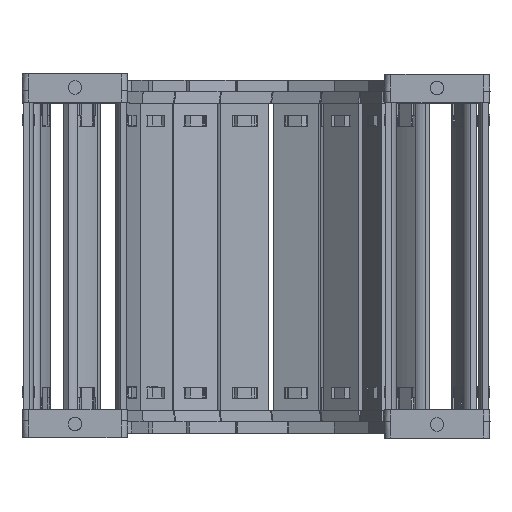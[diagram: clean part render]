
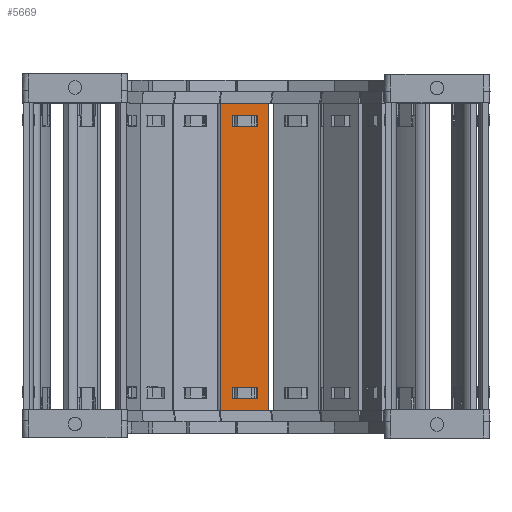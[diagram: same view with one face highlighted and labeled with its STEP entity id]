
A CAD part, top view. The second image highlights one B-rep face of the part: STEP entity #5669.
In plain terms, the highlighted planar face has unit normal (0.035, 0, 0.999) as drawn and (0, 1, 0) by its records, which use the part's own axes.
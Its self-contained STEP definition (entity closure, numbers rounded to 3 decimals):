
#5089=DIRECTION('',(0.,0.,1.));
#5090=VECTOR('',#5089,15.8);
#5091=CARTESIAN_POINT('',(85.74,1.5,-7.9));
#5092=LINE('',#5091,#5090);
#5093=DIRECTION('',(-1.,0.,0.));
#5094=VECTOR('',#5093,100.5);
#5095=CARTESIAN_POINT('',(85.74,1.5,7.9));
#5096=LINE('',#5095,#5094);
#5097=DIRECTION('',(0.,0.,-1.));
#5098=VECTOR('',#5097,15.8);
#5099=CARTESIAN_POINT('',(-14.76,1.5,7.9));
#5100=LINE('',#5099,#5098);
#5101=DIRECTION('',(1.,0.,0.));
#5102=VECTOR('',#5101,3.648);
#5103=CARTESIAN_POINT('',(78.122,1.5,4.075));
#5104=LINE('',#5103,#5102);
#5105=DIRECTION('',(0.,0.,-1.));
#5106=VECTOR('',#5105,8.15);
#5107=CARTESIAN_POINT('',(81.77,1.5,4.075));
#5108=LINE('',#5107,#5106);
#5109=DIRECTION('',(-1.,0.,0.));
#5110=VECTOR('',#5109,3.648);
#5111=CARTESIAN_POINT('',(81.77,1.5,-4.075));
#5112=LINE('',#5111,#5110);
#5113=DIRECTION('',(0.,0.,-1.));
#5114=VECTOR('',#5113,8.15);
#5115=CARTESIAN_POINT('',(-7.142,1.5,4.075));
#5116=LINE('',#5115,#5114);
#5117=DIRECTION('',(-1.,0.,0.));
#5118=VECTOR('',#5117,3.648);
#5119=CARTESIAN_POINT('',(-7.142,1.5,-4.075));
#5120=LINE('',#5119,#5118);
#5121=DIRECTION('',(0.,0.,1.));
#5122=VECTOR('',#5121,8.15);
#5123=CARTESIAN_POINT('',(-10.79,1.5,-4.075));
#5124=LINE('',#5123,#5122);
#5125=DIRECTION('',(1.,0.,0.));
#5126=VECTOR('',#5125,3.648);
#5127=CARTESIAN_POINT('',(-10.79,1.5,4.075));
#5128=LINE('',#5127,#5126);
#5133=DIRECTION('',(-1.,0.,0.));
#5134=VECTOR('',#5133,100.5);
#5135=CARTESIAN_POINT('',(85.74,1.5,-7.9));
#5136=LINE('',#5135,#5134);
#5254=DIRECTION('',(0.,0.,-1.));
#5255=VECTOR('',#5254,8.15);
#5256=CARTESIAN_POINT('',(78.122,1.5,4.075));
#5257=LINE('',#5256,#5255);
#5439=CARTESIAN_POINT('',(81.77,1.5,4.075));
#5440=VERTEX_POINT('',#5439);
#5441=CARTESIAN_POINT('',(78.122,1.5,4.075));
#5442=VERTEX_POINT('',#5441);
#5483=CARTESIAN_POINT('',(78.122,1.5,-4.075));
#5484=VERTEX_POINT('',#5483);
#5485=CARTESIAN_POINT('',(81.77,1.5,-4.075));
#5486=VERTEX_POINT('',#5485);
#5487=CARTESIAN_POINT('',(85.74,1.5,7.9));
#5489=VERTEX_POINT('',#5487);
#5491=CARTESIAN_POINT('',(85.74,1.5,-7.9));
#5492=VERTEX_POINT('',#5491);
#5515=CARTESIAN_POINT('',(-7.142,1.5,4.075));
#5516=CARTESIAN_POINT('',(-7.142,1.5,-4.075));
#5517=VERTEX_POINT('',#5515);
#5518=VERTEX_POINT('',#5516);
#5519=CARTESIAN_POINT('',(-10.79,1.5,-4.075));
#5520=VERTEX_POINT('',#5519);
#5521=CARTESIAN_POINT('',(-10.79,1.5,4.075));
#5522=VERTEX_POINT('',#5521);
#5523=CARTESIAN_POINT('',(-14.76,1.5,7.9));
#5524=VERTEX_POINT('',#5523);
#5527=CARTESIAN_POINT('',(-14.76,1.5,-7.9));
#5528=VERTEX_POINT('',#5527);
#5638=CARTESIAN_POINT('',(117.48,1.5,10.061));
#5639=DIRECTION('',(0.,-1.,0.));
#5640=DIRECTION('',(0.,0.,-1.));
#5641=AXIS2_PLACEMENT_3D('',#5638,#5639,#5640);
#5642=PLANE('',#5641);
#5643=ORIENTED_EDGE('',*,*,#5577,.T.);
#5644=ORIENTED_EDGE('',*,*,#5603,.T.);
#5645=ORIENTED_EDGE('',*,*,#5616,.T.);
#5647=ORIENTED_EDGE('',*,*,#5646,.F.);
#5648=EDGE_LOOP('',(#5643,#5644,#5645,#5647));
#5649=FACE_OUTER_BOUND('',#5648,.F.);
#5651=ORIENTED_EDGE('',*,*,#5650,.F.);
#5652=ORIENTED_EDGE('',*,*,#5540,.T.);
#5654=ORIENTED_EDGE('',*,*,#5653,.T.);
#5656=ORIENTED_EDGE('',*,*,#5655,.T.);
#5657=EDGE_LOOP('',(#5651,#5652,#5654,#5656));
#5658=FACE_BOUND('',#5657,.F.);
#5660=ORIENTED_EDGE('',*,*,#5659,.T.);
#5662=ORIENTED_EDGE('',*,*,#5661,.T.);
#5664=ORIENTED_EDGE('',*,*,#5663,.T.);
#5666=ORIENTED_EDGE('',*,*,#5665,.T.);
#5667=EDGE_LOOP('',(#5660,#5662,#5664,#5666));
#5668=FACE_BOUND('',#5667,.F.);
#5669=ADVANCED_FACE('',(#5649,#5658,#5668),#5642,.F.);
#5540=EDGE_CURVE('',#5442,#5440,#5104,.T.);
#5577=EDGE_CURVE('',#5492,#5489,#5092,.T.);
#5603=EDGE_CURVE('',#5489,#5524,#5096,.T.);
#5616=EDGE_CURVE('',#5524,#5528,#5100,.T.);
#5646=EDGE_CURVE('',#5492,#5528,#5136,.T.);
#5650=EDGE_CURVE('',#5442,#5484,#5257,.T.);
#5653=EDGE_CURVE('',#5440,#5486,#5108,.T.);
#5655=EDGE_CURVE('',#5486,#5484,#5112,.T.);
#5659=EDGE_CURVE('',#5517,#5518,#5116,.T.);
#5661=EDGE_CURVE('',#5518,#5520,#5120,.T.);
#5663=EDGE_CURVE('',#5520,#5522,#5124,.T.);
#5665=EDGE_CURVE('',#5522,#5517,#5128,.T.);
